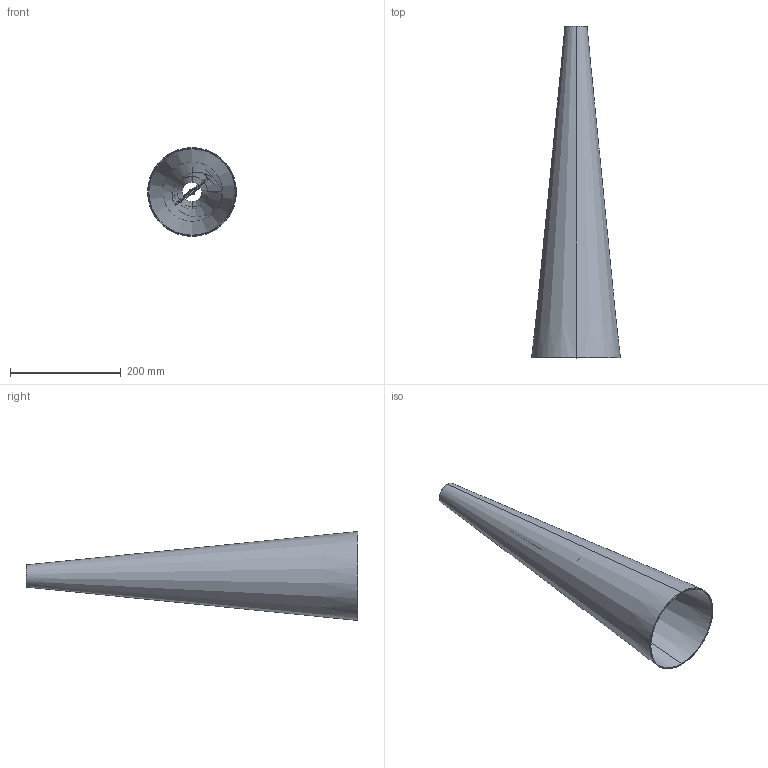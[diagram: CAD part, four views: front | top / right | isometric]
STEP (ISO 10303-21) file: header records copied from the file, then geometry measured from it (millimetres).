
FILE_DESCRIPTION (( 'STEP AP214' ), '1' );
FILE_NAME ('21010ME_Sospensione 60.STEP', '2023-11-21T16:05:06', ( '' ), ( '' ), 'SwSTEP 2.0', 'SolidWorks 2023', '' );
FILE_SCHEMA (( 'AUTOMOTIVE_DESIGN' ));
Length unit declared in the file: millimetre
Products named in the file (6): 210E001_258; 21010ME_Sospensione 60; 210V001_210V002; 210E00x_210E002; Cavo_00; 210P002_00_Aperto
Assembly tree (5 placements, depth 2):
  21010ME_Sospensione 60
    210V001_210V002
    210E001_258
    210E00x_210E002
    210P002_00_Aperto
    Cavo_00
Bounding box: 160.67 x 600.07 x 160.67 mm (x, y, z)
Volume: 471383.4 mm3; surface area: 531002.1 mm2
Topology: 11 solids, 11 shells, 309 faces, 794 edges, 511 vertices
Faces by surface type: plane 132, cylinder 75, bspline 48, torus 26, cone 20, sphere 8
Entity records: 11924 total; most frequent: CARTESIAN_POINT 4391, ORIENTED_EDGE 1568, DIRECTION 1431, EDGE_CURVE 784, VERTEX_POINT 510, AXIS2_PLACEMENT_3D 505, LINE 421, VECTOR 421
